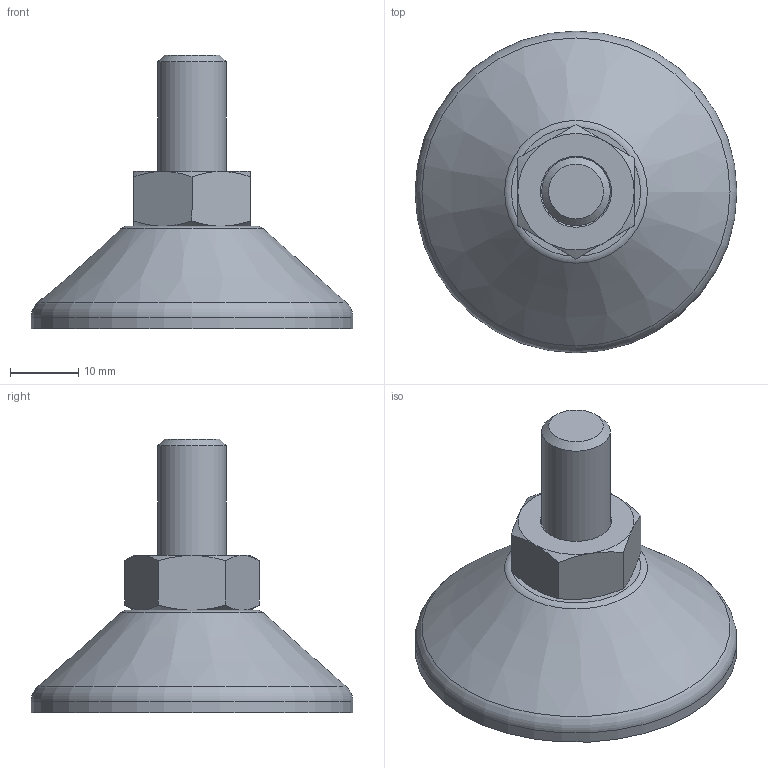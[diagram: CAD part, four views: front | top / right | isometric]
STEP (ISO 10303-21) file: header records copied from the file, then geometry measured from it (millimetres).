
FILE_DESCRIPTION(/* description */ ('Unknown'),/* implementation_level */ '2;1');
FILE_NAME(/* name */ '113.00006_04',/* time_stamp */ '2021-11-26T12:08:44+01:00',/* author */ ('Unknown'),/* organization */ ('Unknown'),/* preprocessor_version */ 'ST-DEVELOPER v18.1',/* originating_system */ 'Solid Edge',/* authorisation */ 'Unknown');
FILE_SCHEMA (('AUTOMOTIVE_DESIGN {1 0 10303 214 3 1 1}'));
Length unit declared in the file: millimetre
Products named in the file (3): 113.00006; 113.00006-ohne Mutter; Mutter M10
Assembly tree (2 placements, depth 2):
  113.00006
    113.00006-ohne Mutter
    Mutter M10
Bounding box: 47 x 47 x 40 mm (x, y, z)
Volume: 18917.7 mm3; surface area: 6958.7 mm2
Topology: 2 solids, 2 shells, 46 faces, 87 edges, 53 vertices
Faces by surface type: plane 18, cone 16, cylinder 10, torus 2
Full cylindrical faces by diameter (mm): 8.376 x1, 9.5 x1, 10 x1, 15 x1, 19 x1, 25 x1, 29 x1, 35 x1, 39 x1, 47 x1
Entity records: 1456 total; most frequent: CARTESIAN_POINT 239, DIRECTION 180, ORIENTED_EDGE 136, AXIS2_PLACEMENT_3D 87, EDGE_LOOP 72, FACE_BOUND 72, EDGE_CURVE 68, VERTEX_POINT 50
